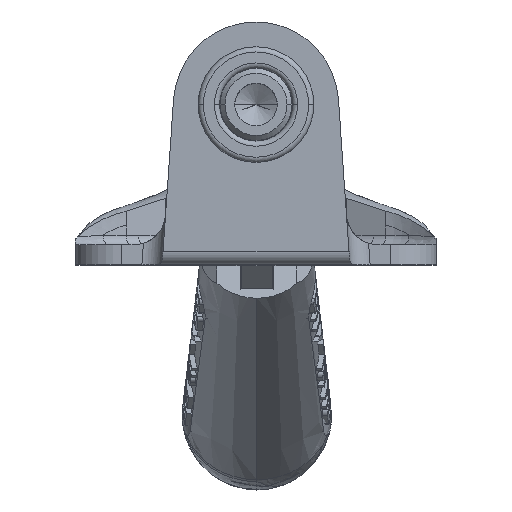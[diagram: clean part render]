
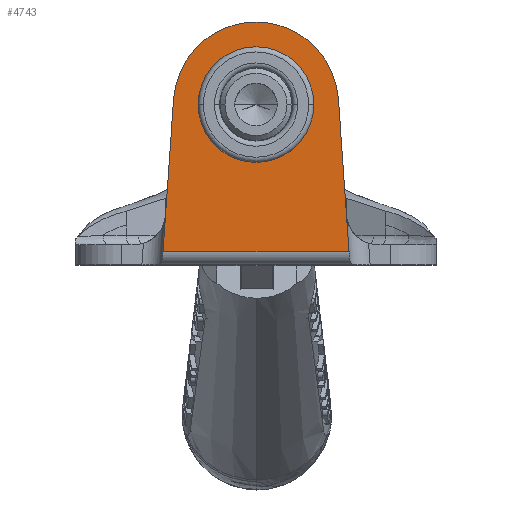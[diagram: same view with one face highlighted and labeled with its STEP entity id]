
A CAD part, top view. The second image highlights one B-rep face of the part: STEP entity #4743.
In plain terms, the highlighted planar face has unit normal (0, 0, 1).
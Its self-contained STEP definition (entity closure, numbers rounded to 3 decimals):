
#1455=CARTESIAN_POINT('',(13.912,-17.022,78.461));
#1478=DIRECTION('',(-0.069,-0.998,0.));
#1479=VECTOR('',#1478,5.572);
#1480=CARTESIAN_POINT('',(-13.912,-17.022,78.461));
#1481=LINE('',#1480,#1479);
#1485=DIRECTION('',(-0.069,-0.998,0.));
#1486=VECTOR('',#1485,17.945);
#1487=CARTESIAN_POINT('',(-12.67,0.879,78.461));
#1488=LINE('',#1487,#1486);
#1492=CARTESIAN_POINT('',(0.,0.,78.461));
#1493=DIRECTION('',(0.,0.,1.));
#1494=DIRECTION('',(0.998,0.069,0.));
#1495=AXIS2_PLACEMENT_3D('',#1492,#1493,#1494);
#1500=DIRECTION('',(-0.069,0.998,0.));
#1501=VECTOR('',#1500,17.945);
#1502=CARTESIAN_POINT('',(13.912,-17.022,78.461));
#1503=LINE('',#1502,#1501);
#1507=DIRECTION('',(-0.069,0.998,0.));
#1508=VECTOR('',#1507,5.572);
#1509=CARTESIAN_POINT('',(14.298,-22.581,78.461));
#1510=LINE('',#1509,#1508);
#1514=CARTESIAN_POINT('',(0.,0.,78.461));
#1515=DIRECTION('',(0.,0.,-1.));
#1516=DIRECTION('',(-1.,0.,0.));
#1517=AXIS2_PLACEMENT_3D('',#1514,#1515,#1516);
#1522=CARTESIAN_POINT('',(0.,0.,78.461));
#1523=DIRECTION('',(0.,0.,-1.));
#1524=DIRECTION('',(1.,0.,0.));
#1525=AXIS2_PLACEMENT_3D('',#1522,#1523,#1524);
#1530=CARTESIAN_POINT('',(-13.912,-17.022,78.461));
#1561=CARTESIAN_POINT('',(-14.298,-22.581,78.461));
#1905=DIRECTION('',(-1.,0.,0.));
#1906=VECTOR('',#1905,28.596);
#1907=CARTESIAN_POINT('',(14.298,-22.581,78.461));
#1908=LINE('',#1907,#1906);
#3075=CARTESIAN_POINT('',(-7.207,0.,78.461));
#3076=VERTEX_POINT('',#3075);
#3077=CARTESIAN_POINT('',(7.207,0.,78.461));
#3078=VERTEX_POINT('',#3077);
#3286=VERTEX_POINT('',#1455);
#3305=CARTESIAN_POINT('',(12.67,0.879,78.461));
#3306=VERTEX_POINT('',#3305);
#3307=CARTESIAN_POINT('',(14.298,-22.581,78.461));
#3308=VERTEX_POINT('',#3307);
#3318=VERTEX_POINT('',#1530);
#3329=CARTESIAN_POINT('',(-12.67,0.879,78.461));
#3330=VERTEX_POINT('',#3329);
#3343=VERTEX_POINT('',#1561);
#4719=CARTESIAN_POINT('',(0.,0.,78.461));
#4720=DIRECTION('',(0.,0.,1.));
#4721=DIRECTION('',(1.,0.,0.));
#4722=AXIS2_PLACEMENT_3D('',#4719,#4720,#4721);
#4723=PLANE('',#4722);
#4725=ORIENTED_EDGE('',*,*,#4724,.F.);
#4727=ORIENTED_EDGE('',*,*,#4726,.F.);
#4729=ORIENTED_EDGE('',*,*,#4728,.F.);
#4731=ORIENTED_EDGE('',*,*,#4730,.F.);
#4732=ORIENTED_EDGE('',*,*,#4708,.F.);
#4734=ORIENTED_EDGE('',*,*,#4733,.T.);
#4735=EDGE_LOOP('',(#4725,#4727,#4729,#4731,#4732,#4734));
#4736=FACE_OUTER_BOUND('',#4735,.F.);
#4738=ORIENTED_EDGE('',*,*,#4737,.F.);
#4740=ORIENTED_EDGE('',*,*,#4739,.F.);
#4741=EDGE_LOOP('',(#4738,#4740));
#4742=FACE_BOUND('',#4741,.F.);
#1496=CIRCLE('',#1495,12.7);
#1518=CIRCLE('',#1517,7.207);
#1526=CIRCLE('',#1525,7.207);
#4708=EDGE_CURVE('',#3308,#3286,#1510,.T.);
#4724=EDGE_CURVE('',#3318,#3343,#1481,.T.);
#4726=EDGE_CURVE('',#3330,#3318,#1488,.T.);
#4728=EDGE_CURVE('',#3306,#3330,#1496,.T.);
#4730=EDGE_CURVE('',#3286,#3306,#1503,.T.);
#4733=EDGE_CURVE('',#3308,#3343,#1908,.T.);
#4737=EDGE_CURVE('',#3076,#3078,#1518,.T.);
#4739=EDGE_CURVE('',#3078,#3076,#1526,.T.);
#4743=ADVANCED_FACE('',(#4736,#4742),#4723,.T.);
